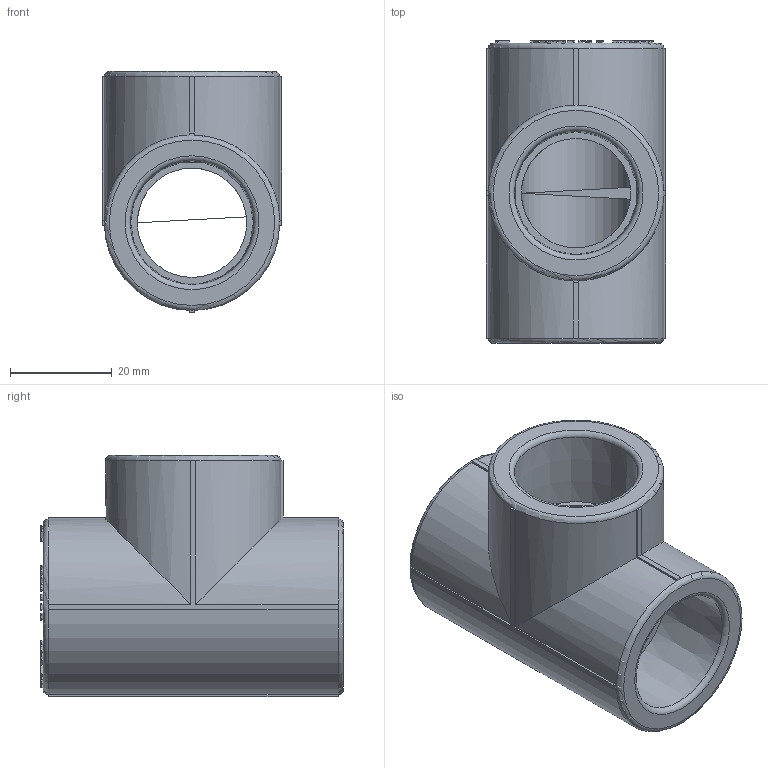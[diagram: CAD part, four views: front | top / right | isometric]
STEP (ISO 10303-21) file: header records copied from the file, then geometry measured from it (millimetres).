
FILE_DESCRIPTION(('STEP AP203'), '1');
FILE_NAME('ÂÐ.752241.027 - VTp.731.0.025', '', ('UNSPECIFIED'), ('UNSPECIFIED'), 'C3D Converter', 'C3D Toolkit', '');
FILE_SCHEMA(('CONFIG_CONTROL_DESIGN'));
Length unit declared in the file: millimetre
Products named in the file (1): ВР.752241.027
Bounding box: 35.3 x 59.5 x 47.4 mm (x, y, z)
Volume: 35517.6 mm3; surface area: 14506.4 mm2
Topology: 1 solids, 1 shells, 1050 faces, 2945 edges, 1953 vertices
Faces by surface type: extrusion 613, plane 391, cylinder 37, torus 6, cone 3
Full cylindrical faces by diameter (mm): 6 x1, 21.5 x2
Entity records: 38394 total; most frequent: CARTESIAN_POINT 14609, ORIENTED_EDGE 5864, DIRECTION 2938, EDGE_CURVE 2932, VECTOR 1980, VERTEX_POINT 1953, B_SPLINE_CURVE_WITH_KNOTS 1841, LINE 1367
